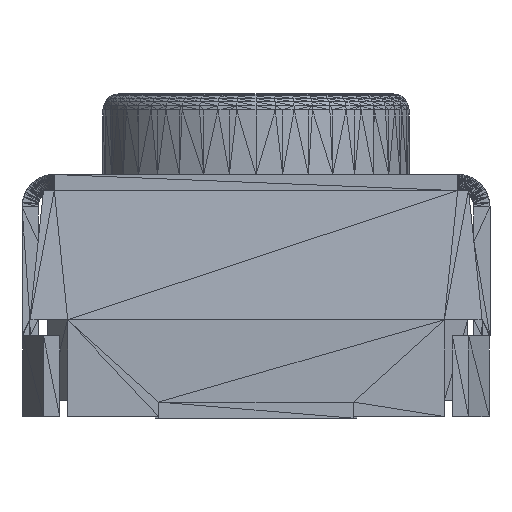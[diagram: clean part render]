
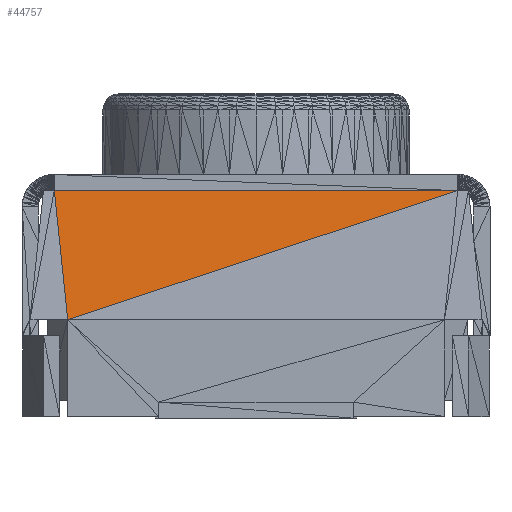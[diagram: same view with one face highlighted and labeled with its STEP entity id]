
A CAD part, left-side view. The second image highlights one B-rep face of the part: STEP entity #44757.
In plain terms, the highlighted planar face has unit normal (-0.995, 0, 0.104).
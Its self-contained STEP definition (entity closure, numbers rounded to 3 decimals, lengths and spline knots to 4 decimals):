
#2867=DIRECTION('',(0.0,1.0,0.0));
#2868=VECTOR('',#2867,1000.0);
#36067=CARTESIAN_POINT('',(-2.032,1.1668,-0.9));
#36068=VERTEX_POINT('',#36067);
#36135=CARTESIAN_POINT('',(-1.9479,-1.25,-0.1));
#36136=VERTEX_POINT('',#36135);
#36137=CARTESIAN_POINT('',(-1.9479,1.25,-0.1));
#36138=VERTEX_POINT('',#36137);
#44708=DIRECTION('',(-0.995,0.0,0.105));
#44728=DIRECTION('',(-0.033,0.949,-0.314));
#44729=VECTOR('',#44728,1000.0);
#44730=LINE('',#36135,#44729);
#44731=EDGE_CURVE('',#36136,#36068,#44730,.T.);
#44743=LINE('',#36135,#2868);
#44744=EDGE_CURVE('',#36136,#36138,#44743,.T.);
#44745=DIRECTION('',(-0.104,-0.103,-0.989));
#44746=VECTOR('',#44745,1000.0);
#44747=LINE('',#36137,#44746);
#44748=EDGE_CURVE('',#36138,#36068,#44747,.T.);
#44749=ORIENTED_EDGE('',*,*,#44731,.F.);
#44750=ORIENTED_EDGE('',*,*,#44744,.T.);
#44751=ORIENTED_EDGE('',*,*,#44748,.T.);
#44752=DIRECTION('',(0.033,-0.949,0.314));
#44753=AXIS2_PLACEMENT_3D('',#36067,#44708,#44752);
#44754=PLANE('',#44753);
#44755=EDGE_LOOP('',(#44749,#44750,#44751));
#44756=FACE_BOUND('',#44755,.T.);
#44757=ADVANCED_FACE('',(#44756),#44754,.T.);
